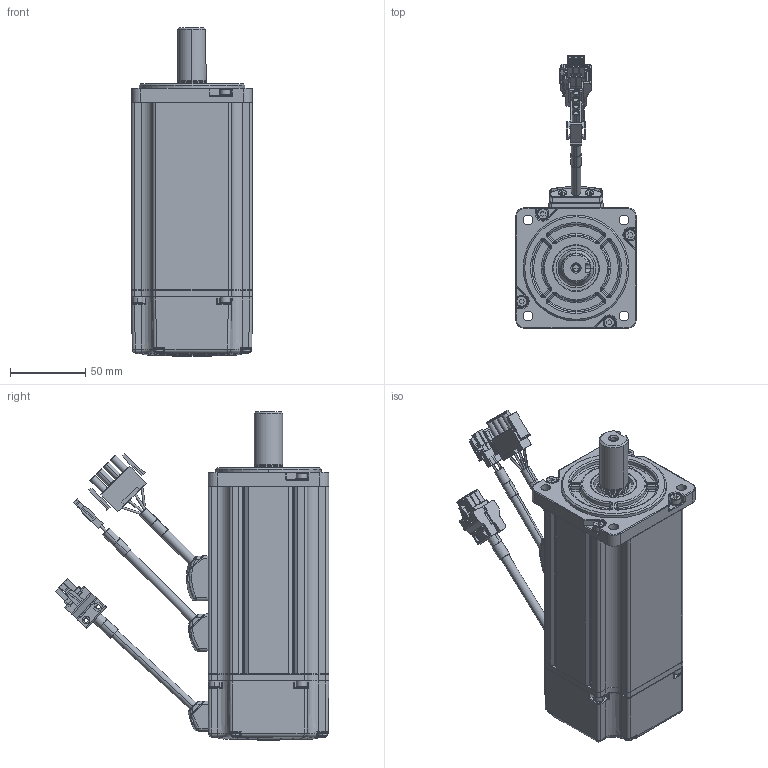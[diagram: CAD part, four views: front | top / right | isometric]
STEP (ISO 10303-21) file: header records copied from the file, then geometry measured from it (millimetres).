
FILE_DESCRIPTION (( 'STEP AP203' ), '1' );
FILE_NAME ('SM0803GE4-KCF-BNV.STEP', '2019-07-23T06:12:18', ( '' ), ( '' ), 'SwSTEP 2.0', 'SolidWorks 2014', '' );
FILE_SCHEMA (( 'CONFIG_CONTROL_DESIGN' ));
Length unit declared in the file: millimetre
Products named in the file (1): SM0803GE4-KCF-BNV
Bounding box: 80 x 181.27 x 217.8 mm (x, y, z)
Surface area: 101659.4 mm2 (no closed solid volume)
Topology: 0 solids, 62 shells, 1386 faces, 4251 edges, 2894 vertices
Faces by surface type: plane 587, cylinder 406, bspline 154, cone 99, torus 95, sphere 45
Entity records: 54907 total; most frequent: CARTESIAN_POINT 17987, DIRECTION 7569, ORIENTED_EDGE 7212, EDGE_CURVE 4241, VERTEX_POINT 2894, AXIS2_PLACEMENT_3D 2593, LINE 2383, VECTOR 2383
